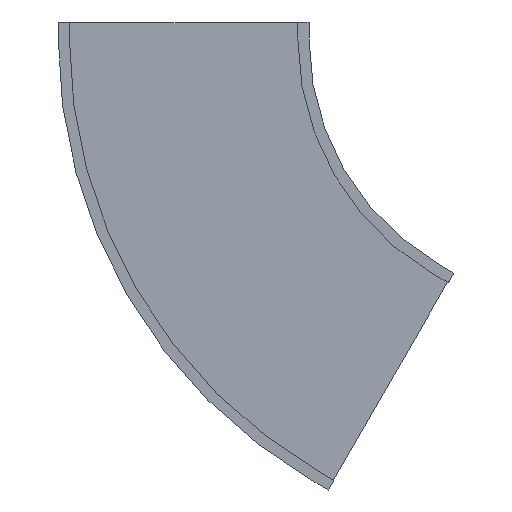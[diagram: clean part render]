
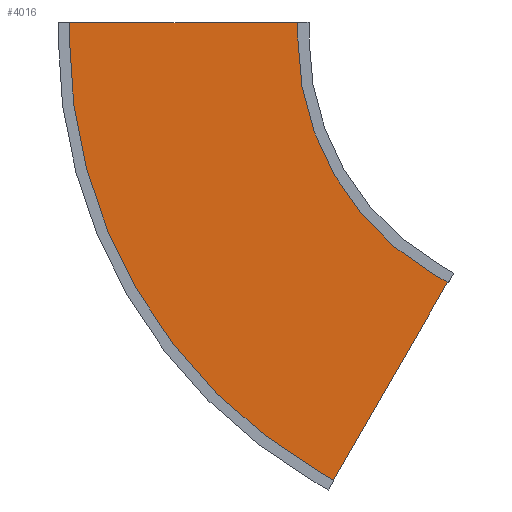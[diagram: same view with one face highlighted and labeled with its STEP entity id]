
A CAD part, front view. The second image highlights one B-rep face of the part: STEP entity #4016.
In plain terms, the highlighted planar face has unit normal (0, -1, 0).
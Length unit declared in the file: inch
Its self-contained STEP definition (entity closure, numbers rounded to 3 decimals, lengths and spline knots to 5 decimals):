
#3861=DIRECTION('',(0.,0.,1.));
#3862=VECTOR('',#3861,41.875);
#3863=CARTESIAN_POINT('',(-2.875,0.,-20.9375));
#3864=LINE('',#3863,#3862);
#3865=DIRECTION('',(1.,0.,0.));
#3866=VECTOR('',#3865,2.875);
#3867=CARTESIAN_POINT('',(-2.875,0.,20.9375));
#3868=LINE('',#3867,#3866);
#3869=CARTESIAN_POINT('',(0.,0.,69.11));
#3870=DIRECTION('',(0.,-1.,0.));
#3871=DIRECTION('',(0.,0.,-1.));
#3872=AXIS2_PLACEMENT_3D('',#3869,#3870,#3871);
#3874=DIRECTION('',(0.5,0.,0.866));
#3875=VECTOR('',#3874,2.875);
#3876=CARTESIAN_POINT('',(41.71861,0.,45.02375));
#3877=LINE('',#3876,#3875);
#3878=DIRECTION('',(0.866,0.,-0.5));
#3879=VECTOR('',#3878,41.875);
#3880=CARTESIAN_POINT('',(43.15611,0.,47.51357));
#3881=LINE('',#3880,#3879);
#3882=DIRECTION('',(-0.5,0.,-0.866));
#3883=VECTOR('',#3882,2.875);
#3884=CARTESIAN_POINT('',(79.42092,0.,26.57607));
#3885=LINE('',#3884,#3883);
#3886=CARTESIAN_POINT('',(0.,0.,69.11));
#3887=DIRECTION('',(0.,1.,0.));
#3888=DIRECTION('',(0.866,0.,-0.5));
#3889=AXIS2_PLACEMENT_3D('',#3886,#3887,#3888);
#3891=DIRECTION('',(-1.,0.,0.));
#3892=VECTOR('',#3891,2.875);
#3893=CARTESIAN_POINT('',(0.,0.,-20.9375));
#3894=LINE('',#3893,#3892);
#3961=CARTESIAN_POINT('',(-2.875,0.,-20.9375));
#3962=CARTESIAN_POINT('',(-2.875,0.,20.9375));
#3963=VERTEX_POINT('',#3961);
#3964=VERTEX_POINT('',#3962);
#3965=CARTESIAN_POINT('',(0.,0.,20.9375));
#3966=VERTEX_POINT('',#3965);
#3967=CARTESIAN_POINT('',(41.71861,0.,45.02375));
#3968=VERTEX_POINT('',#3967);
#3969=CARTESIAN_POINT('',(43.15611,0.,47.51357));
#3970=VERTEX_POINT('',#3969);
#3971=CARTESIAN_POINT('',(79.42092,0.,26.57607));
#3972=VERTEX_POINT('',#3971);
#3973=CARTESIAN_POINT('',(77.98342,0.,24.08625));
#3974=VERTEX_POINT('',#3973);
#3975=CARTESIAN_POINT('',(0.,0.,-20.9375));
#3976=VERTEX_POINT('',#3975);
#3993=CARTESIAN_POINT('',(0.,0.,0.));
#3994=DIRECTION('',(0.,1.,0.));
#3995=DIRECTION('',(1.,0.,0.));
#3996=AXIS2_PLACEMENT_3D('',#3993,#3994,#3995);
#3997=PLANE('',#3996);
#3999=ORIENTED_EDGE('',*,*,#3998,.T.);
#4001=ORIENTED_EDGE('',*,*,#4000,.T.);
#4003=ORIENTED_EDGE('',*,*,#4002,.T.);
#4005=ORIENTED_EDGE('',*,*,#4004,.T.);
#4007=ORIENTED_EDGE('',*,*,#4006,.T.);
#4009=ORIENTED_EDGE('',*,*,#4008,.T.);
#4011=ORIENTED_EDGE('',*,*,#4010,.T.);
#4013=ORIENTED_EDGE('',*,*,#4012,.T.);
#4014=EDGE_LOOP('',(#3999,#4001,#4003,#4005,#4007,#4009,#4011,#4013));
#4015=FACE_OUTER_BOUND('',#4014,.F.);
#4016=ADVANCED_FACE('',(#4015),#3997,.F.);
#3873=CIRCLE('',#3872,48.1725);
#3890=CIRCLE('',#3889,90.0475);
#3998=EDGE_CURVE('',#3963,#3964,#3864,.T.);
#4000=EDGE_CURVE('',#3964,#3966,#3868,.T.);
#4002=EDGE_CURVE('',#3966,#3968,#3873,.T.);
#4004=EDGE_CURVE('',#3968,#3970,#3877,.T.);
#4006=EDGE_CURVE('',#3970,#3972,#3881,.T.);
#4008=EDGE_CURVE('',#3972,#3974,#3885,.T.);
#4010=EDGE_CURVE('',#3974,#3976,#3890,.T.);
#4012=EDGE_CURVE('',#3976,#3963,#3894,.T.);
